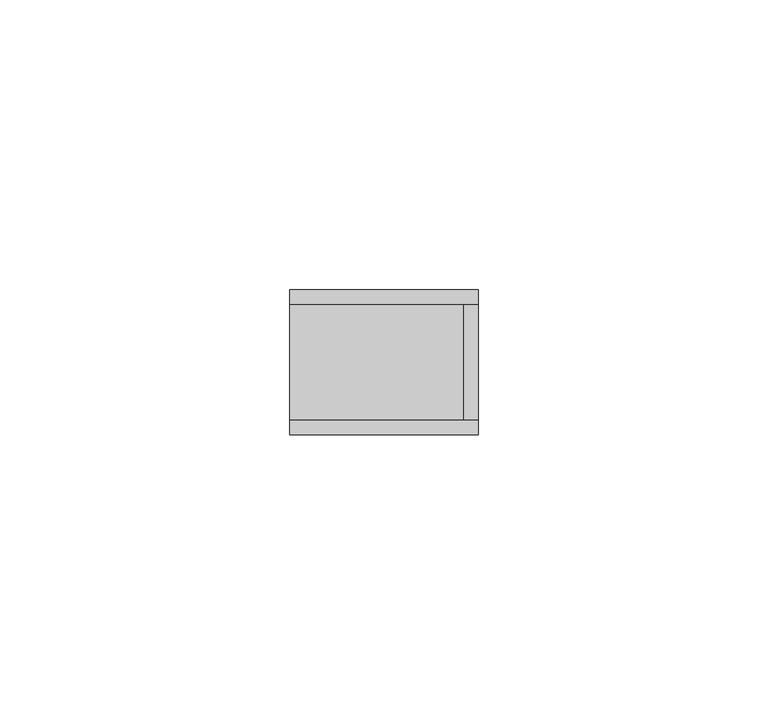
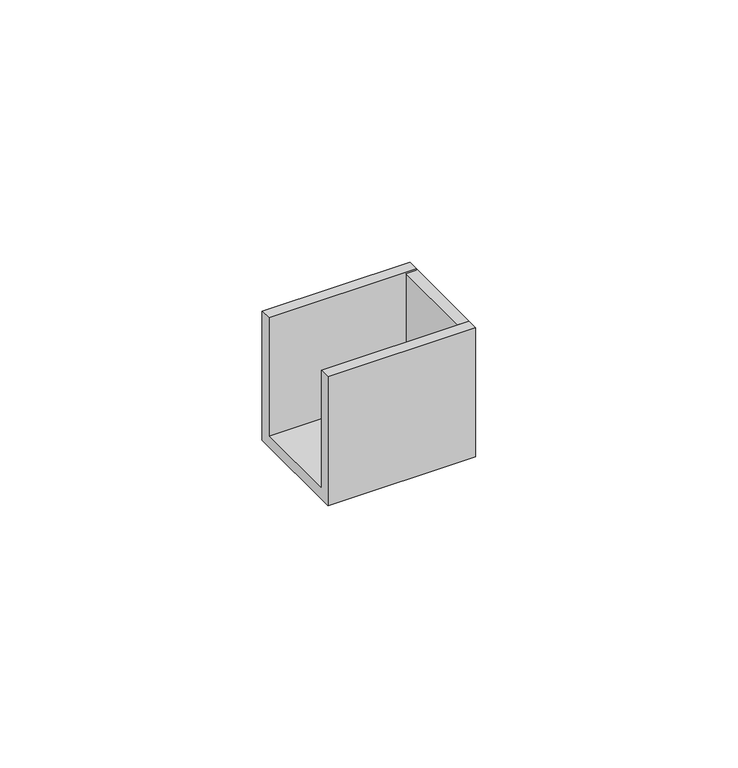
"""IFC4 building model written with IfcOpenShell, lengths in millimetres: cable carrier fitting geometry, КНС_ЗаглушкаТорцеваяLAN_ILC_DKC : Заглушка торцевая LAN_DKC."""

from ifc_helpers import new_model, si_unit, frame, origin, place, context, project, spatial, polyline, outline, extrude, source, transform, mapped, element, save


def cable_carrier_fitting_f2974cd6(model_context):
    return source(origin(), model_context, "Body", "SweptSolid", [
        extrude(outline(polyline([(12.5, -15.0), (-12.5, -15.0), (-12.5, 15.0), (-10.0, 15.0), (-10.0, -12.5), (10.0, -12.5), (10.0, 15.0), (12.5, 15.0), (12.5, -15.0)])), frame((-32.5, 0.0, 0.0), z_axis=(1.0, 0.0, 0.0), x_axis=(0.0, 1.0, 0.0)), (0.0, 0.0, 1.0), 32.5),
        extrude(outline(polyline([(0.0, 10.0), (0.0, -10.0), (-2.5, -10.0), (-2.5, 10.0), (0.0, 10.0)])), frame((0.0, 0.0, -15.0), z_axis=(0.0, 0.0, 1.0), x_axis=(1.0, 0.0, 0.0)), (0.0, 0.0, 1.0), 30.0),
    ])


if __name__ == "__main__":
    model = new_model("IFC4")
    model_context = context("Model", 3, world=origin())
    ifc_project = project(units=[si_unit("LENGTHUNIT", "METRE", prefix="MILLI")], contexts=[model_context])
    site = spatial("IfcSite", under=ifc_project)
    building = spatial("IfcBuilding", under=site)
    placement = place(None, origin())
    cable_carrier_fitting_shape = cable_carrier_fitting_f2974cd6(model_context)
    element("IfcCableCarrierFitting", 1, ObjectType="КНС_ЗаглушкаТорцеваяLAN_ILC_DKC : Заглушка торцевая LAN_DKC", at=placement, inside=building, context=model_context, shape_type="MappedRepresentation", body=[
        mapped(cable_carrier_fitting_shape, transform((0.0, 0.0, 0.0), x_axis=(1.0, 0.0, 0.0), y_axis=(0.0, 1.0, 0.0), z_axis=(0.0, 0.0, 1.0))),
    ])
    save(model, "model.ifc")
